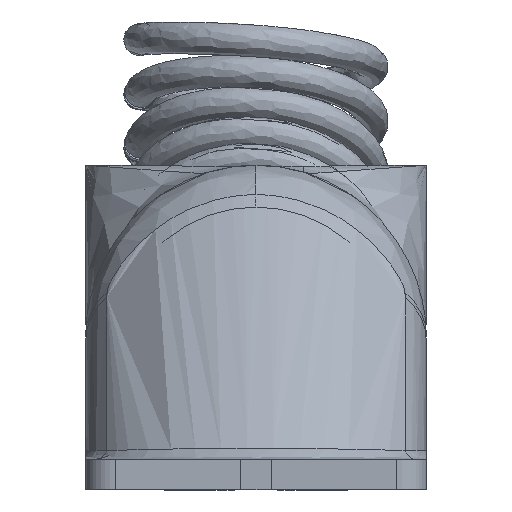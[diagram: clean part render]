
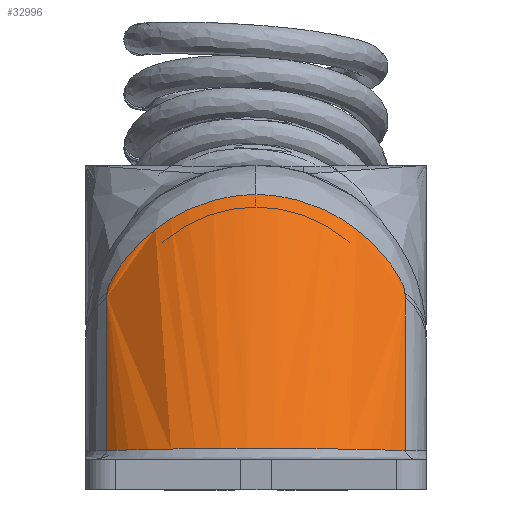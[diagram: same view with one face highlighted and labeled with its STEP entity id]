
A CAD part, left-side view. The second image highlights one B-rep face of the part: STEP entity #32996.
In plain terms, the highlighted free-form (B-spline) face has degree [1, 2] with [2, 9] control points.
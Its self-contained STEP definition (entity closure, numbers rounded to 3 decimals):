
#31376=CARTESIAN_POINT('',(21.853,7.44,1.964));
#31377=VERTEX_POINT('',#31376);
#31595=CARTESIAN_POINT('',(21.853,-7.44,1.964));
#31596=VERTEX_POINT('',#31595);
#31605=CARTESIAN_POINT('',(21.853,-7.44,1.964));
#31606=CARTESIAN_POINT('',(21.843,-7.434,1.964));
#31607=CARTESIAN_POINT('',(21.834,-7.429,1.964));
#31608=CARTESIAN_POINT('',(21.296,-7.123,1.975));
#31609=CARTESIAN_POINT('',(20.806,-6.766,1.986));
#31610=CARTESIAN_POINT('',(20.004,-6.039,2.006));
#31611=CARTESIAN_POINT('',(19.676,-5.683,2.015));
#31612=CARTESIAN_POINT('',(19.087,-4.925,2.032));
#31613=CARTESIAN_POINT('',(18.826,-4.522,2.039));
#31614=CARTESIAN_POINT('',(18.377,-3.68,2.054));
#31615=CARTESIAN_POINT('',(18.188,-3.242,2.06));
#31616=CARTESIAN_POINT('',(17.887,-2.342,2.072));
#31617=CARTESIAN_POINT('',(17.773,-1.88,2.076));
#31618=CARTESIAN_POINT('',(17.623,-0.946,2.084));
#31619=CARTESIAN_POINT('',(17.549,0.,2.088));
#31620=CARTESIAN_POINT('',(17.623,0.946,2.084));
#31621=CARTESIAN_POINT('',(17.773,1.88,2.076));
#31622=CARTESIAN_POINT('',(17.887,2.342,2.072));
#31623=CARTESIAN_POINT('',(18.188,3.242,2.06));
#31624=CARTESIAN_POINT('',(18.377,3.68,2.054));
#31625=CARTESIAN_POINT('',(18.826,4.522,2.039));
#31626=CARTESIAN_POINT('',(19.087,4.925,2.032));
#31627=CARTESIAN_POINT('',(19.676,5.683,2.015));
#31628=CARTESIAN_POINT('',(20.004,6.039,2.006));
#31629=CARTESIAN_POINT('',(20.806,6.766,1.986));
#31630=CARTESIAN_POINT('',(21.296,7.123,1.975));
#31631=CARTESIAN_POINT('',(21.834,7.429,1.964));
#31632=CARTESIAN_POINT('',(21.843,7.434,1.964));
#31633=CARTESIAN_POINT('',(21.853,7.44,1.964));
#31634=B_SPLINE_CURVE_WITH_KNOTS('',3,(#31605,#31606,#31607,#31608,#31609,#31610,#31611,#31612,#31613,#31614,#31615,#31616,#31617,#31618,#31619,#31620,#31621,#31622,#31623,#31624,#31625,#31626,#31627,#31628,#31629,#31630,#31631,#31632,#31633),.UNSPECIFIED.,.F.,.U.,(4,2,2,2,2,2,2,1,2,2,2,2,2,2,4),(-2.496,-2.493,-2.292,-2.128,-1.963,-1.797,-1.632,-1.467,-1.302,-1.136,-0.971,-0.806,-0.642,-0.441,-0.437),.UNSPECIFIED.);
#31635=EDGE_CURVE('',#31596,#31377,#31634,.T.);
#32313=CARTESIAN_POINT('',(29.523,-7.44,9.634));
#32314=VERTEX_POINT('',#32313);
#32322=CARTESIAN_POINT('',(21.853,-7.44,1.964));
#32323=DIRECTION('',(0.707,0.,0.707));
#32324=VECTOR('',#32323,10.848);
#32325=LINE('',#32322,#32324);
#32326=EDGE_CURVE('',#31596,#32314,#32325,.T.);
#32480=CARTESIAN_POINT('',(30.236,0.,14.736));
#32481=VERTEX_POINT('',#32480);
#32489=CARTESIAN_POINT('',(29.756,-7.431,9.884));
#32490=VERTEX_POINT('',#32489);
#32491=CARTESIAN_POINT('',(29.756,-7.431,9.884));
#32492=CARTESIAN_POINT('',(29.941,-7.416,10.095));
#32493=CARTESIAN_POINT('',(30.047,-7.097,10.779));
#32494=CARTESIAN_POINT('',(30.104,-6.022,12.221));
#32495=CARTESIAN_POINT('',(30.179,-4.209,13.744));
#32496=CARTESIAN_POINT('',(30.228,-1.932,14.605));
#32497=CARTESIAN_POINT('',(30.236,-0.484,14.736));
#32498=CARTESIAN_POINT('',(30.236,0.,14.736));
#32499=B_SPLINE_CURVE_WITH_KNOTS('',3,(#32491,#32492,#32493,#32494,#32495,#32496,#32497,#32498),.UNSPECIFIED.,.F.,.U.,(4,1,1,1,1,4),(0.0,0.084,0.168,0.336,0.504,0.588),.UNSPECIFIED.);
#32500=EDGE_CURVE('',#32490,#32481,#32499,.T.);
#32551=CARTESIAN_POINT('',(29.523,-7.44,9.634));
#32552=CARTESIAN_POINT('',(29.603,-7.44,9.715));
#32553=CARTESIAN_POINT('',(29.681,-7.436,9.798));
#32554=CARTESIAN_POINT('',(29.756,-7.431,9.884));
#32555=B_SPLINE_CURVE_WITH_KNOTS('',3,(#32551,#32552,#32553,#32554),.UNSPECIFIED.,.F.,.U.,(4,4),(0.,0.034),.UNSPECIFIED.);
#32556=EDGE_CURVE('',#32314,#32490,#32555,.T.);
#32870=CARTESIAN_POINT('',(29.756,7.431,9.884));
#32871=VERTEX_POINT('',#32870);
#32879=CARTESIAN_POINT('',(29.756,7.431,9.884));
#32880=CARTESIAN_POINT('',(29.941,7.416,10.095));
#32881=CARTESIAN_POINT('',(30.047,7.097,10.779));
#32882=CARTESIAN_POINT('',(30.104,6.022,12.221));
#32883=CARTESIAN_POINT('',(30.179,4.209,13.744));
#32884=CARTESIAN_POINT('',(30.228,1.932,14.605));
#32885=CARTESIAN_POINT('',(30.236,0.484,14.736));
#32886=CARTESIAN_POINT('',(30.236,0.,14.736));
#32887=B_SPLINE_CURVE_WITH_KNOTS('',3,(#32879,#32880,#32881,#32882,#32883,#32884,#32885,#32886),.UNSPECIFIED.,.F.,.U.,(4,1,1,1,1,4),(0.0,0.084,0.168,0.336,0.504,0.588),.UNSPECIFIED.);
#32888=EDGE_CURVE('',#32871,#32481,#32887,.T.);
#32912=CARTESIAN_POINT('',(29.523,7.44,9.634));
#32913=VERTEX_POINT('',#32912);
#32921=CARTESIAN_POINT('',(29.523,7.44,9.634));
#32922=CARTESIAN_POINT('',(29.603,7.44,9.715));
#32923=CARTESIAN_POINT('',(29.681,7.436,9.798));
#32924=CARTESIAN_POINT('',(29.756,7.431,9.884));
#32925=B_SPLINE_CURVE_WITH_KNOTS('',3,(#32921,#32922,#32923,#32924),.UNSPECIFIED.,.F.,.U.,(4,4),(0.,0.034),.UNSPECIFIED.);
#32926=EDGE_CURVE('',#32913,#32871,#32925,.T.);
#32945=CARTESIAN_POINT('',(21.853,7.44,1.964));
#32946=DIRECTION('',(0.707,0.,0.707));
#32947=VECTOR('',#32946,10.848);
#32948=LINE('',#32945,#32947);
#32949=EDGE_CURVE('',#31377,#32913,#32948,.T.);
#32961=CARTESIAN_POINT('',(21.769,8.5,-2.231));
#32962=CARTESIAN_POINT('',(34.648,8.5,10.648));
#32963=CARTESIAN_POINT('',(26.019,8.5,-6.481));
#32964=CARTESIAN_POINT('',(38.898,8.5,6.398));
#32965=CARTESIAN_POINT('',(26.019,0.,-6.481));
#32966=CARTESIAN_POINT('',(38.898,0.,6.398));
#32967=CARTESIAN_POINT('',(26.019,-8.5,-6.481));
#32968=CARTESIAN_POINT('',(38.898,-8.5,6.398));
#32969=CARTESIAN_POINT('',(21.769,-8.5,-2.231));
#32970=CARTESIAN_POINT('',(34.648,-8.5,10.648));
#32971=CARTESIAN_POINT('',(17.519,-8.5,2.019));
#32972=CARTESIAN_POINT('',(30.398,-8.5,14.898));
#32973=CARTESIAN_POINT('',(17.519,0.,2.019));
#32974=CARTESIAN_POINT('',(30.398,0.,14.898));
#32975=CARTESIAN_POINT('',(17.519,8.5,2.019));
#32976=CARTESIAN_POINT('',(30.398,8.5,14.898));
#32977=CARTESIAN_POINT('',(21.769,8.5,-2.231));
#32978=CARTESIAN_POINT('',(34.648,8.5,10.648));
#32986=(BOUNDED_SURFACE()B_SPLINE_SURFACE(1,2,((#32961,#32963,#32965,#32967,#32969,#32971,#32973,#32975,#32977),(#32962,#32964,#32966,#32968,#32970,#32972,#32974,#32976,#32978)),.UNSPECIFIED.,.F.,.T.,.U.)B_SPLINE_SURFACE_WITH_KNOTS((2,2),(3,2,2,2,3),(-1.652,0.491),(0.0,13.352,26.704,40.055,53.407),.UNSPECIFIED.)GEOMETRIC_REPRESENTATION_ITEM()RATIONAL_B_SPLINE_SURFACE(((1.0,0.707,1.0,0.707,1.0,0.707,1.0,0.707,1.0),(1.0,0.707,1.0,0.707,1.0,0.707,1.0,0.707,1.0)))REPRESENTATION_ITEM('')SURFACE());
#32987=ORIENTED_EDGE('',*,*,#31635,.F.);
#32988=ORIENTED_EDGE('',*,*,#32326,.T.);
#32989=ORIENTED_EDGE('',*,*,#32556,.T.);
#32990=ORIENTED_EDGE('',*,*,#32500,.T.);
#32991=ORIENTED_EDGE('',*,*,#32888,.F.);
#32992=ORIENTED_EDGE('',*,*,#32926,.F.);
#32993=ORIENTED_EDGE('',*,*,#32949,.F.);
#32994=EDGE_LOOP('',(#32987,#32988,#32989,#32990,#32991,#32992,#32993));
#32995=FACE_OUTER_BOUND('',#32994,.T.);
#32996=ADVANCED_FACE('',(#32995),#32986,.T.);
